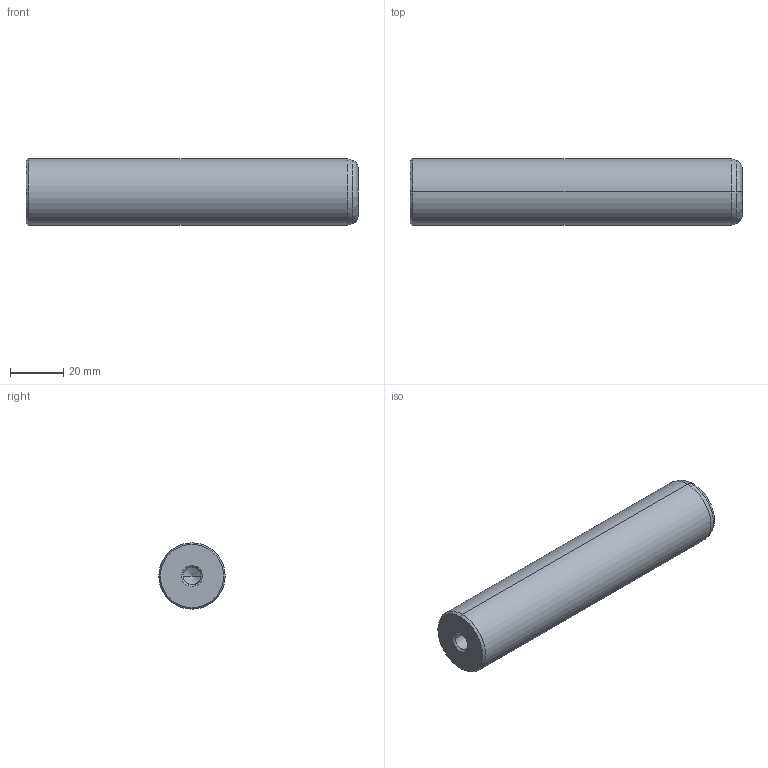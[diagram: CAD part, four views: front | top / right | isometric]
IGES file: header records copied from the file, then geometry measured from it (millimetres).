
Start section: START RECORD GO HERE.
Global section: file name: 720-25x125.igs; native system: DASSAULT SYSTEMES CATIA V5 R20 - www.3ds.com; preprocessor: CATIA Version 5 Release 20 ; author: Utente; organization: NB04-ASUS; date: 20210101.134451; units: millimetre
Bounding box: 125 x 25 x 25 mm (x, y, z)
Surface area: 11628.1 mm2 (no closed solid volume)
Topology: 0 solids, 0 shells, 22 faces, 120 edges, 116 vertices
Faces by surface type: revolution 20, plane 2
